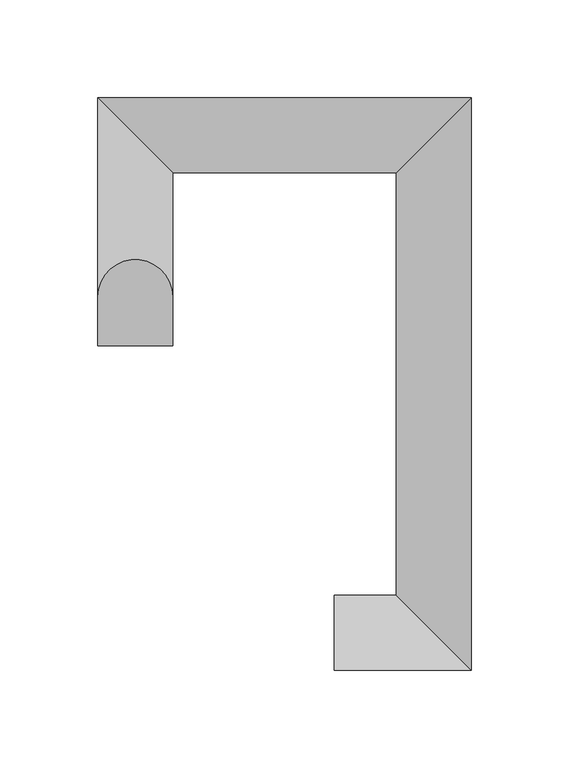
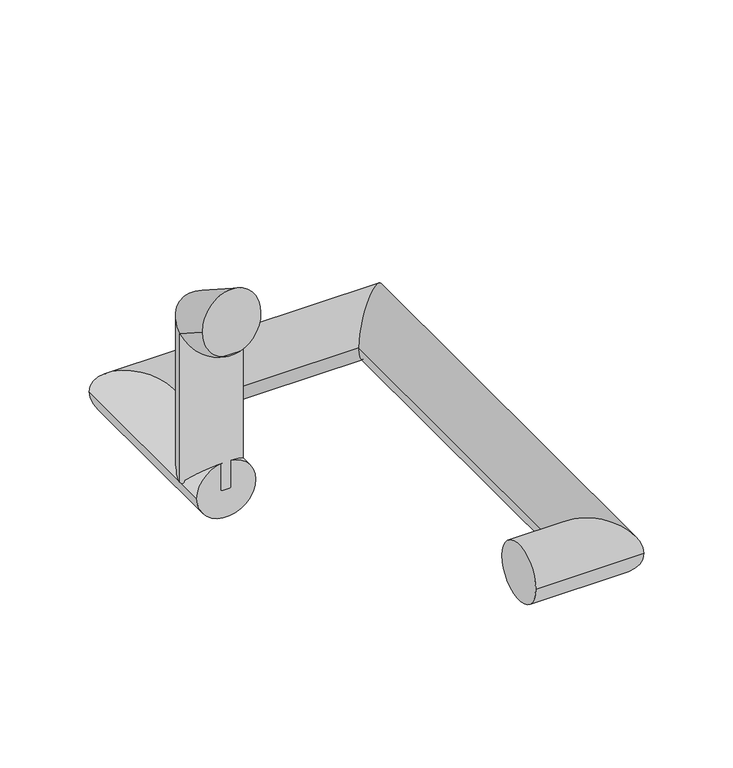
"""IFC4 building model written with IfcOpenShell, lengths in millimetres: proxy geometry, Livers Bronze-090310-Ver1-Button Rail End : Livers Bronze-090429-Ver1-Button Rail End Bottom."""

from ifc_helpers import new_model, si_unit, frame, origin, place, context, project, spatial, circle_curve, ellipse_curve, source, transform, mapped, element, save
from ifc_brep_helpers import plane_surface, cylinder_surface, advanced_brep


def generic_models_33d2c56b(model_context):
    return source(origin(), model_context, "Body", "AdvancedBrep", [
        advanced_brep(
        [(-19.05, 19.05, 0.0), (19.05, 19.05, 0.0), (19.05, 19.05, 101.5316335), (-19.05, 19.05, 101.5316335), (19.05, -5.8603003, 117.7085717), (5.5325816, -5.8603003, 95.9730924), (-5.5325816, -5.8603003, 95.9730924), (-19.05, -5.8603003, 117.7085717), (0.0, -5.8603003, 140.4230924)],
        [
            (0, 1, circle_curve(frame((0.0, 19.05, 0.0), z_axis=(0.0, 0.0, -1.0), x_axis=(1.0, 0.0, 0.0)), 19.05)),
            (1, 0, circle_curve(frame((0.0, 19.05, 0.0), z_axis=(0.0, 0.0, -1.0), x_axis=(1.0, 0.0, 0.0)), 19.05)),
            (1, 2),
            (2, 3, ellipse_curve(frame((0.0, 19.05, 101.5316335), z_axis=(0.0, 0.47715876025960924, -0.878817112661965), x_axis=(0.0, -0.8788171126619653, -0.4771587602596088)), 21.6768651, 19.05)),
            (3, 0),
            (3, 2, ellipse_curve(frame((0.0, 19.05, 101.5316335), z_axis=(0.0, 0.47715876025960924, -0.878817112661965), x_axis=(0.0, -0.8788171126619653, -0.4771587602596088)), 21.6768651, 19.05)),
            (2, 4),
            (4, 5, ellipse_curve(frame((0.0, -5.8603003, 117.7085717), z_axis=(0.0, 1.0, 0.0), x_axis=(0.0, 0.0, -1.0)), 22.7145207, 19.05)),
            (5, 6, ellipse_curve(frame((0.0, -5.8603003, 117.7085717), z_axis=(0.0, 1.0, 0.0), x_axis=(0.0, 0.0, -1.0)), 22.7145207, 19.05)),
            (6, 7, ellipse_curve(frame((0.0, -5.8603003, 117.7085717), z_axis=(0.0, 1.0, 0.0), x_axis=(0.0, 0.0, -1.0)), 22.7145207, 19.05)),
            (7, 3),
            (7, 8, ellipse_curve(frame((0.0, -5.8603003, 117.7085717), z_axis=(0.0, 1.0, 0.0), x_axis=(0.0, 0.0, -1.0)), 22.7145207, 19.05)),
            (8, 4, ellipse_curve(frame((0.0, -5.8603003, 117.7085717), z_axis=(0.0, 1.0, 0.0), x_axis=(0.0, 0.0, -1.0)), 22.7145207, 19.05)),
            (5, 6),
        ],
        [
            plane_surface(frame((0.0, 19.05, 0.0), z_axis=(0.0, 0.0, -1.0), x_axis=(1.0, 0.0, 0.0))),
            cylinder_surface(frame((0.0, 19.05, 0.0), z_axis=(0.0, 0.0, -1.0), x_axis=(1.0, 0.0, 0.0)), 19.05),
            cylinder_surface(frame((0.0, 19.05, 101.5316335), z_axis=(0.0, 0.8386705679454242, -0.5446390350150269), x_axis=(1.0, 0.0, 0.0)), 19.05),
            plane_surface(frame((20.6730635, -5.8603003, 95.9730924), z_axis=(0.0, -1.0, 0.0), x_axis=(-1.0, 0.0, 0.0))),
            plane_surface(frame((20.6730635, -5.8603003, 140.4230924), z_axis=(0.0, -1.0, 0.0), x_axis=(-1.0, 0.0, 0.0))),
        ],
        [
            (0, [[1, 2]]),
            (1, [[3, 4, 5, -2]]),
            (1, [[-5, 6, -3, -1]]),
            (2, [[7, 8, 9, 10, 11, -4]]),
            (2, [[-11, 12, 13, -7, -6]]),
            (3, [[-9, 14]]),
            (4, [[-8, -13, -12, -10, -14]]),
        ],
    ),
        advanced_brep(
        [(-19.05, 0.0, 0.0), (19.05, 0.0, 0.0), (19.05, 82.55, 0.0), (-19.05, 120.65, 0.0), (133.35, 82.55, 0.0), (171.45, 120.65, 0.0), (133.35, -133.35, 0.0), (171.45, -171.45, 0.0), (101.6, -171.45, 0.0), (101.6, -133.35, 0.0)],
        [
            (0, 1, circle_curve(frame((0.0, 0.0, 0.0), z_axis=(0.0, -1.0, 0.0), x_axis=(1.0, 0.0, 0.0)), 19.05)),
            (1, 0, circle_curve(frame((0.0, 0.0, 0.0), z_axis=(0.0, -1.0, 0.0), x_axis=(1.0, 0.0, 0.0)), 19.05)),
            (1, 2),
            (2, 3, ellipse_curve(frame((0.0, 101.6, 0.0), z_axis=(-0.7071067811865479, -0.707106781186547, 0.0), x_axis=(0.707106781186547, -0.707106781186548, 0.0)), 26.9407684, 19.05)),
            (3, 0),
            (3, 2, ellipse_curve(frame((0.0, 101.6, 0.0), z_axis=(-0.7071067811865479, -0.707106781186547, 0.0), x_axis=(0.707106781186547, -0.707106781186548, 0.0)), 26.9407684, 19.05)),
            (2, 4),
            (4, 5, ellipse_curve(frame((152.4, 101.6, 0.0), z_axis=(-0.7071067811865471, 0.7071067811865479, 0.0), x_axis=(-0.7071067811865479, -0.7071067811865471, 0.0)), 26.9407684, 19.05)),
            (5, 3),
            (5, 4, ellipse_curve(frame((152.4, 101.6, 0.0), z_axis=(-0.7071067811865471, 0.7071067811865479, 0.0), x_axis=(-0.7071067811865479, -0.7071067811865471, 0.0)), 26.9407684, 19.05)),
            (4, 6),
            (6, 7, ellipse_curve(frame((152.4, -152.4, 0.0), z_axis=(0.7071067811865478, 0.7071067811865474, 0.0), x_axis=(-0.7071067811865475, 0.7071067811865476, 0.0)), 26.9407684, 19.05)),
            (7, 5),
            (7, 6, ellipse_curve(frame((152.4, -152.4, 0.0), z_axis=(0.7071067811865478, 0.7071067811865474, 0.0), x_axis=(-0.7071067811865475, 0.7071067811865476, 0.0)), 26.9407684, 19.05)),
            (8, 9, circle_curve(frame((101.6, -152.4, 0.0), z_axis=(-1.0, 0.0, 0.0), x_axis=(0.0, 1.0, 0.0)), 19.05)),
            (9, 8, circle_curve(frame((101.6, -152.4, 0.0), z_axis=(-1.0, 0.0, 0.0), x_axis=(0.0, 1.0, 0.0)), 19.05)),
            (6, 9),
            (8, 7),
        ],
        [
            plane_surface(frame((0.0, 0.0, 0.0), z_axis=(0.0, -1.0, 0.0), x_axis=(0.0, 0.0, 1.0))),
            cylinder_surface(frame((0.0, 0.0, 0.0), z_axis=(0.0, -1.0, 0.0), x_axis=(1.0, 0.0, 0.0)), 19.05),
            cylinder_surface(frame((0.0, 101.6, 0.0), z_axis=(-1.0, 0.0, 0.0), x_axis=(0.0, -1.0, 0.0)), 19.05),
            cylinder_surface(frame((152.4, 101.6, 0.0), z_axis=(0.0, 1.0, 0.0), x_axis=(-1.0, 0.0, 0.0)), 19.05),
            plane_surface(frame((101.6, -152.4, 0.0), z_axis=(-1.0, 0.0, 0.0), x_axis=(0.0, 0.0, 1.0))),
            cylinder_surface(frame((152.4, -152.4, 0.0), z_axis=(1.0, 0.0, 0.0), x_axis=(0.0, 1.0, 0.0)), 19.05),
        ],
        [
            (0, [[1, 2]]),
            (1, [[3, 4, 5, -2]]),
            (1, [[-5, 6, -3, -1]]),
            (2, [[7, 8, 9, -4]]),
            (2, [[-9, 10, -7, -6]]),
            (3, [[11, 12, 13, -8]]),
            (3, [[-13, 14, -11, -10]]),
            (4, [[15, 16]]),
            (5, [[17, -15, 18, -12]]),
            (5, [[-18, -16, -17, -14]]),
        ],
    ),
    ])


if __name__ == "__main__":
    model = new_model("IFC4")
    model_context = context("Model", 3, world=origin())
    ifc_project = project(units=[si_unit("LENGTHUNIT", "METRE", prefix="MILLI")], contexts=[model_context])
    site = spatial("IfcSite", under=ifc_project)
    building = spatial("IfcBuilding", under=site)
    placement = place(None, origin())
    generic_models_shape = generic_models_33d2c56b(model_context)
    element("IfcBuildingElementProxy", 1, Name="Livers Bronze-090310-Ver1-Button Rail End : Livers Bronze-090429-Ver1-Button Rail End Bottom", ObjectType="Livers Bronze-090310-Ver1-Button Rail End : Livers Bronze-090429-Ver1-Button Rail End Bottom", at=placement, inside=building, context=model_context, shape_type="MappedRepresentation", body=[
        mapped(generic_models_shape, transform((0.0, 0.0, 0.0), x_axis=(1.0, 0.0, 0.0), y_axis=(0.0, 1.0, 0.0), z_axis=(0.0, 0.0, 1.0))),
    ])
    save(model, "model.ifc")
